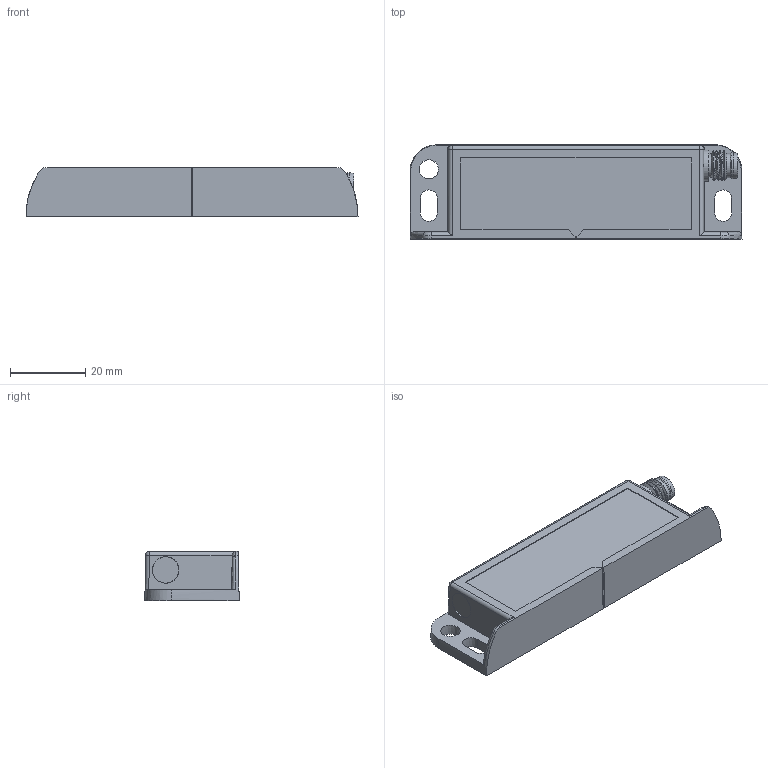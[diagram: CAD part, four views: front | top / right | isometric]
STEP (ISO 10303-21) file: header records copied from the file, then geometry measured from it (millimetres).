
FILE_DESCRIPTION(/* description */ (''),/* implementation_level */ '2;1');
FILE_NAME(/* name */ 'V:/a TO PERSON/Vilius/MC88/Catalogue/CADs/MC88CH2OLM5.step',/* time_stamp */ '2020-10-27T09:35:11+02:00',/* author */ (''),/* organization */ (''),/* preprocessor_version */ 'ST-DEVELOPER v18.1',/* originating_system */ 'Autodesk Translation Framework v9.3.0.1241',/* authorisation */ '');
FILE_SCHEMA (('AUTOMOTIVE_DESIGN { 1 0 10303 214 3 1 1 }'));
Length unit declared in the file: millimetre
Products named in the file (2): MC88CH2OLM5; m8_connector
Assembly tree (1 placements, depth 2):
  MC88CH2OLM5
    m8_connector
Bounding box: 88 x 25 x 13 mm (x, y, z)
Volume: 23838.6 mm3; surface area: 15668.3 mm2
Topology: 8 solids, 8 shells, 182 faces, 459 edges, 297 vertices
Faces by surface type: plane 112, cylinder 41, cone 12, bspline 10, sphere 6, torus 1
Full cylindrical faces by diameter (mm): 1 x4, 5.8 x2, 6.259 x3, 6.44 x1, 6.5 x1, 6.744 x1, 6.937 x1, 7 x2, 7.044 x1, 7.884 x1, 8.25 x1
Entity records: 6513 total; most frequent: CARTESIAN_POINT 2028, ORIENTED_EDGE 910, DIRECTION 889, EDGE_CURVE 455, LINE 319, VECTOR 319, VERTEX_POINT 297, AXIS2_PLACEMENT_3D 285
